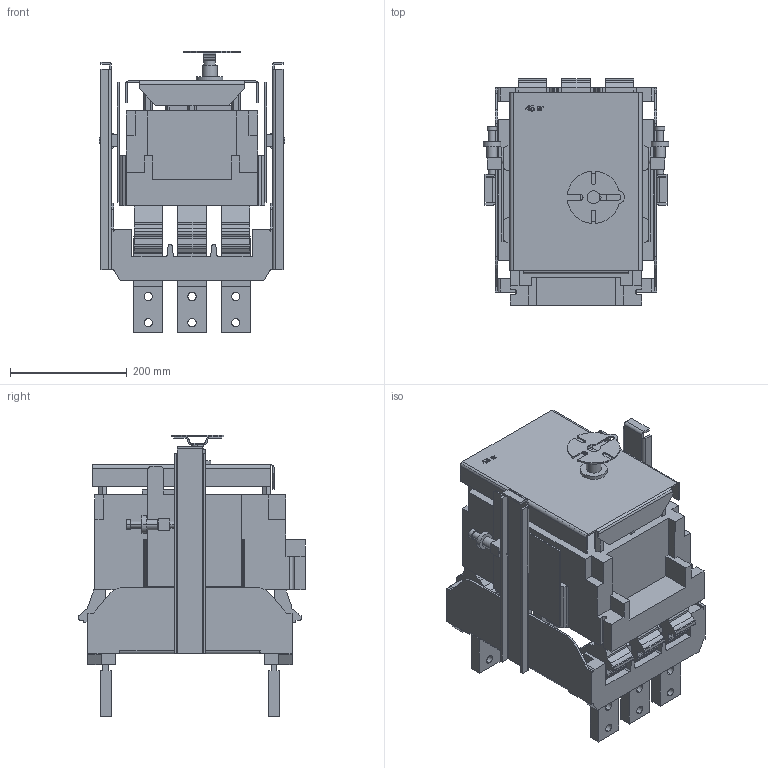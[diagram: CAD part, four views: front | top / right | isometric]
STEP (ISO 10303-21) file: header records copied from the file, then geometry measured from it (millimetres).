
FILE_DESCRIPTION (( 'STEP AP214' ), '1' );
FILE_NAME ('ÂÀ52(56)-41 ÂÈ ñ ðó÷íûì äèñòàíöèîííûì ïðèâîäîì.STEP', '2023-02-09T13:12:29', ( 'user' ), ( '' ), 'SwSTEP 2.0', 'SolidWorks 2018', '' );
FILE_SCHEMA (( 'AUTOMOTIVE_DESIGN' ));
Length unit declared in the file: millimetre
Products named in the file (1): ÂÀ52(56)-41 ÂÈ ñ ðó÷íûì äèñòàíöèîííûì ïðèâîäîì
Bounding box: 318 x 388.65 x 481.85 mm (x, y, z)
Volume: 16486832.4 mm3; surface area: 1371025.4 mm2
Topology: 1 solids, 1 shells, 873 faces, 2580 edges, 1721 vertices
Faces by surface type: plane 606, cylinder 260, cone 7
Entity records: 29477 total; most frequent: CARTESIAN_POINT 5482, ORIENTED_EDGE 5152, DIRECTION 4825, EDGE_CURVE 2576, VECTOR 2021, LINE 2021, VERTEX_POINT 1721, AXIS2_PLACEMENT_3D 1402
